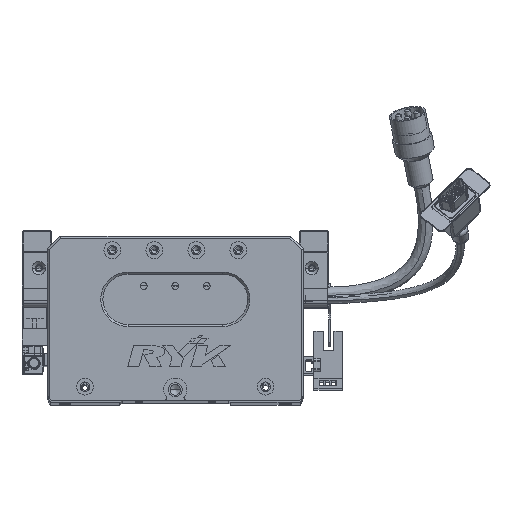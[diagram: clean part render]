
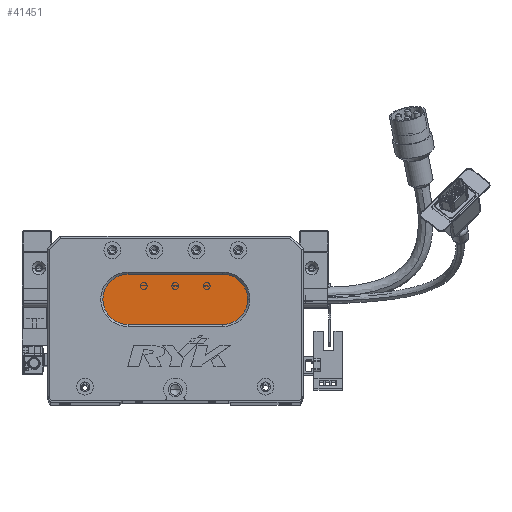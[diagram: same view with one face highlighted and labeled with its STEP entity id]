
A CAD part, top view. The second image highlights one B-rep face of the part: STEP entity #41451.
In plain terms, the highlighted planar face has unit normal (0, 0, 1) as drawn and (0, 0, -1) by its records, which use the part's own axes.
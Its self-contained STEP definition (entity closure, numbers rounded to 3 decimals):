
#723 = VERTEX_POINT ( 'NONE', #59857 ) ;
#1488 = ORIENTED_EDGE ( 'NONE', *, *, #55309, .T. ) ;
#6022 = VERTEX_POINT ( 'NONE', #39493 ) ;
#7328 = LINE ( 'NONE', #45551, #38723 ) ;
#7437 = CARTESIAN_POINT ( 'NONE',  ( 38.5, 48., 13. ) ) ;
#8243 = DIRECTION ( 'NONE',  ( 0., 0., -1. ) ) ;
#8326 = DIRECTION ( 'NONE',  ( 1., 0., 0. ) ) ;
#9021 = DIRECTION ( 'NONE',  ( -1., 0., 0. ) ) ;
#11782 = EDGE_LOOP ( 'NONE', ( #79196, #1488, #48520, #25022, #71463 ) ) ;
#14410 = DIRECTION ( 'NONE',  ( 0., 0., -1. ) ) ;
#18114 = CIRCLE ( 'NONE', #26459, 12. ) ;
#20452 = DIRECTION ( 'NONE',  ( -1., 0., 0. ) ) ;
#20986 = CARTESIAN_POINT ( 'NONE',  ( 83.5, 48., 13. ) ) ;
#25022 = ORIENTED_EDGE ( 'NONE', *, *, #38414, .T. ) ;
#25094 = VERTEX_POINT ( 'NONE', #75057 ) ;
#26093 = CARTESIAN_POINT ( 'NONE',  ( 83.5, 48., 13. ) ) ;
#26459 = AXIS2_PLACEMENT_3D ( 'NONE', #26093, #70010, #38656 ) ;
#27218 = DIRECTION ( 'NONE',  ( -1., 0., 0. ) ) ;
#29088 = CIRCLE ( 'NONE', #62239, 12. ) ;
#29159 = LINE ( 'NONE', #52550, #44851 ) ;
#38414 = EDGE_CURVE ( 'NONE', #51967, #76756, #69962, .T. ) ;
#38656 = DIRECTION ( 'NONE',  ( -1., 0., 0. ) ) ;
#38723 = VECTOR ( 'NONE', #9021, 1000. ) ;
#39493 = CARTESIAN_POINT ( 'NONE',  ( 83.5, 36., 13. ) ) ;
#41451 = ADVANCED_FACE ( 'NONE', ( #56988 ), #51765, .T. ) ;
#42743 = AXIS2_PLACEMENT_3D ( 'NONE', #7437, #8243, #27218 ) ;
#44851 = VECTOR ( 'NONE', #8326, 1000. ) ;
#45551 = CARTESIAN_POINT ( 'NONE',  ( 83.5, 36., 13. ) ) ;
#48520 = ORIENTED_EDGE ( 'NONE', *, *, #49625, .T. ) ;
#49189 = EDGE_CURVE ( 'NONE', #76756, #25094, #29159, .T. ) ;
#49625 = EDGE_CURVE ( 'NONE', #723, #51967, #29088, .T. ) ;
#51765 = PLANE ( 'NONE',  #62374 ) ;
#51967 = VERTEX_POINT ( 'NONE', #52294 ) ;
#52294 = CARTESIAN_POINT ( 'NONE',  ( 26.5, 48., 13. ) ) ;
#52452 = DIRECTION ( 'NONE',  ( -1., 0., 0. ) ) ;
#52550 = CARTESIAN_POINT ( 'NONE',  ( 83.5, 60., 13. ) ) ;
#55188 = EDGE_CURVE ( 'NONE', #25094, #6022, #18114, .T. ) ;
#55309 = EDGE_CURVE ( 'NONE', #6022, #723, #7328, .T. ) ;
#56988 = FACE_OUTER_BOUND ( 'NONE', #11782, .T. ) ;
#59857 = CARTESIAN_POINT ( 'NONE',  ( 38.5, 36., 13. ) ) ;
#62239 = AXIS2_PLACEMENT_3D ( 'NONE', #71091, #64243, #52452 ) ;
#62374 = AXIS2_PLACEMENT_3D ( 'NONE', #20986, #14410, #20452 ) ;
#64243 = DIRECTION ( 'NONE',  ( 0., 0., -1. ) ) ;
#69962 = CIRCLE ( 'NONE', #42743, 12. ) ;
#70010 = DIRECTION ( 'NONE',  ( 0., 0., -1. ) ) ;
#71091 = CARTESIAN_POINT ( 'NONE',  ( 38.5, 48., 13. ) ) ;
#71463 = ORIENTED_EDGE ( 'NONE', *, *, #49189, .T. ) ;
#71523 = CARTESIAN_POINT ( 'NONE',  ( 38.5, 60., 13. ) ) ;
#75057 = CARTESIAN_POINT ( 'NONE',  ( 83.5, 60., 13. ) ) ;
#76756 = VERTEX_POINT ( 'NONE', #71523 ) ;
#79196 = ORIENTED_EDGE ( 'NONE', *, *, #55188, .T. ) ;
